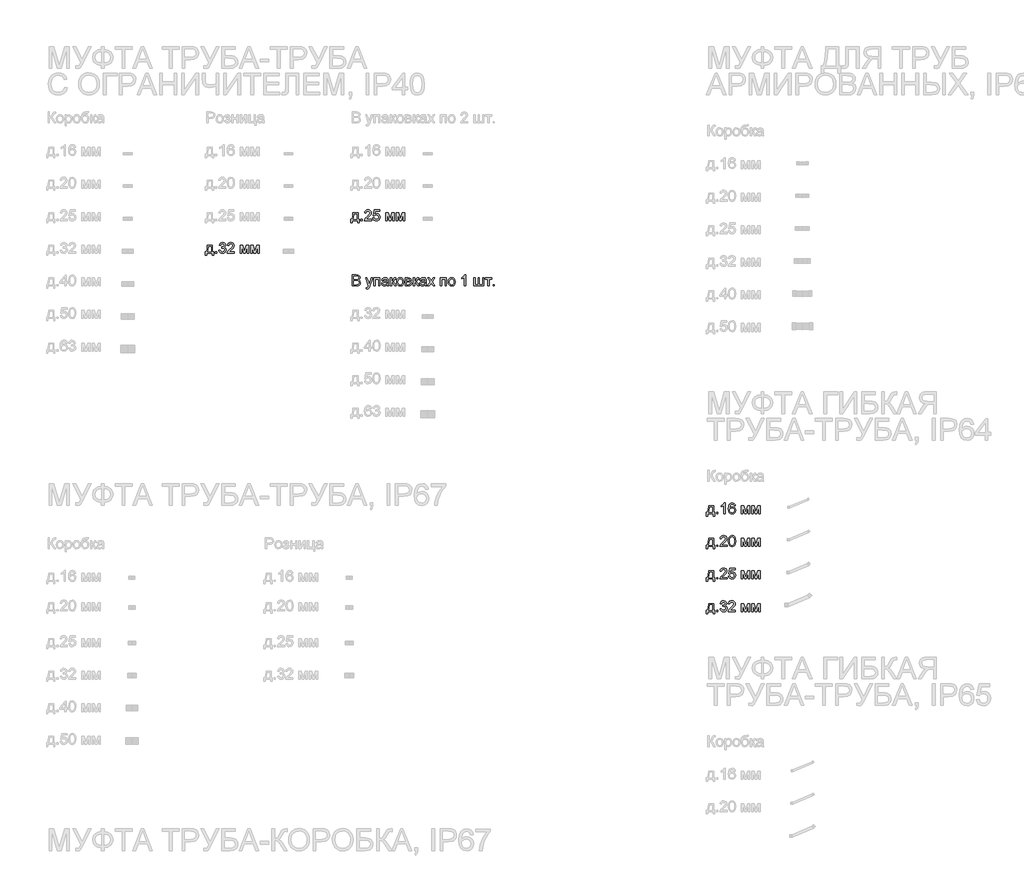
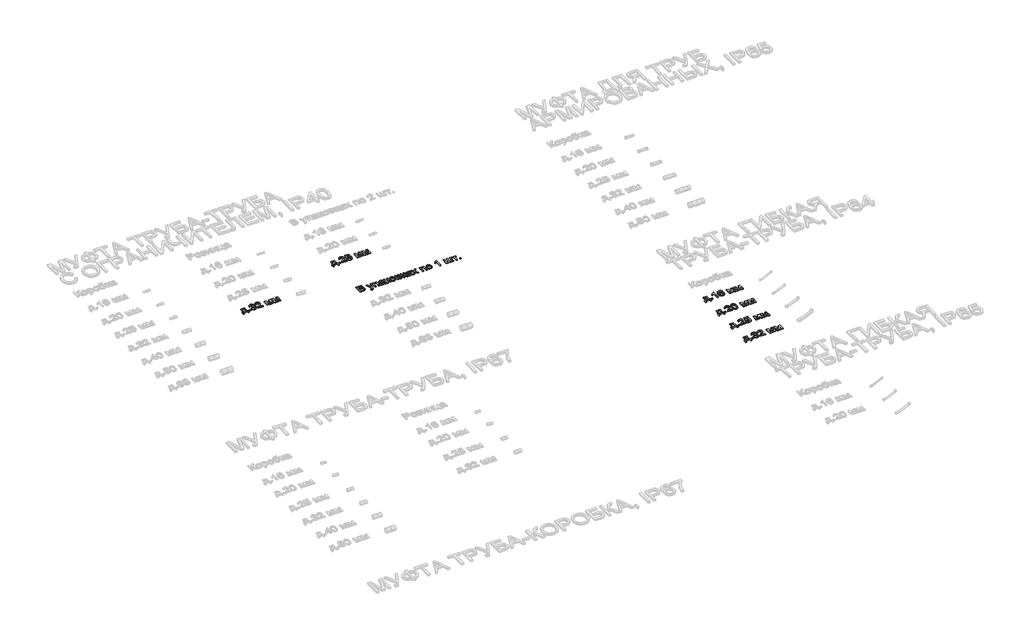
# One storey, part 77 of 98: 7 proxies.
"""IFC4 building model written with IfcOpenShell, lengths in millimetres."""

from ifc_helpers import new_model, si_unit, origin, origin_with_axes, place, context, project, spatial, polyline, outline, extrude, element, save

model = new_model("IFC4")

# Units and contexts
model_context = context("Model", 3, world=origin())
ifc_project = project(units=[si_unit("LENGTHUNIT", "METRE", prefix="MILLI")], contexts=[model_context])

# Site, building, storey
site = spatial("IfcSite", under=ifc_project)
building = spatial("IfcBuilding", under=site)
storey = spatial("IfcBuildingStorey", under=building, Name="Этаж 01", Elevation=0.0)

# Proxies
placement = place(None, origin())
element("IfcBuildingElementProxy", 1, Name="100", ObjectType="100", at=placement, inside=storey, context=model_context, shape_type="SweptSolid", body=[
    extrude(outline(polyline([(9816.3281893, -16465.7395637), (9863.4170847, -16465.7395637), (9863.4170847, -16526.9551277), (9872.8348638, -16526.9551277), (9872.8348638, -16559.9173545), (9860.277825, -16559.9173545), (9860.277825, -16539.5121665), (9808.4800401, -16539.5121665), (9808.4800401, -16559.9173545), (9795.9230013, -16559.9173545), (9795.9230013, -16526.9551277), (9803.7711505, -16526.9551277), (9813.4709725, -16503.0060098), (9816.3281893, -16465.7395637)]), holes=[polyline([(9827.3155982, -16478.2966025), (9824.3725423, -16506.905559), (9817.8978192, -16526.9551277), (9850.8600459, -16526.9551277), (9850.8600459, -16478.2966025), (9827.3155982, -16478.2966025)])]), origin_with_axes(), (0.0, 0.0, 1.0), 10.0),
    extrude(outline(polyline([(9890.1007921, -16539.5121665), (9890.1007921, -16526.9551277), (9902.6578308, -16526.9551277), (9902.6578308, -16539.5121665), (9890.1007921, -16539.5121665)])), origin_with_axes(), (0.0, 0.0, 1.0), 10.0),
    extrude(outline(polyline([(9923.0630188, -16512.8284591), (9935.6200576, -16511.2588292), (9942.5485019, -16524.4780556), (9955.5102108, -16528.5247575), (9964.1186495, -16527.1329373), (9970.7650509, -16522.9574767), (9976.4304336, -16509.1741646), (9970.8141018, -16496.1879302), (9956.5402804, -16491.049845), (9947.735638, -16492.4232711), (9949.1335896, -16479.8662323), (9951.1446778, -16480.0133851), (9965.3939738, -16476.4081416), (9970.1396515, -16471.8341421), (9971.7215441, -16465.3226308), (9967.1352819, -16455.5001815), (9955.3140071, -16451.6128951), (9943.3455795, -16455.5369697), (9937.1896875, -16467.3091935), (9924.6326487, -16465.7395637), (9928.3298627, -16454.4639805), (9934.9088191, -16446.0456142), (9943.9096652, -16440.8032958), (9954.8725487, -16439.0558563), (9970.0170242, -16442.5016843), (9980.6120256, -16451.9194634), (9984.2785828, -16464.5868668), (9980.7959666, -16476.1628869), (9970.4952708, -16484.47702), (9984.180481, -16493.0609332), (9988.9874724, -16509.3948938), (9986.5839767, -16521.6331015), (9979.3734896, -16531.860221), (9968.4903139, -16538.7764025), (9955.0687524, -16541.0817963), (9942.9286466, -16539.1136276), (9933.0448836, -16533.2091216), (9926.1716217, -16524.1776186), (9923.0630188, -16512.8284591)])), origin_with_axes(), (0.0, 0.0, 1.0), 10.0),
    extrude(outline(polyline([(10064.329705, -16526.9551277), (10064.329705, -16539.5121665), (9998.4052515, -16539.5121665), (9999.7541521, -16530.8546768), (10007.3815721, -16517.5250859), (10023.1023961, -16502.9692216), (10044.7829083, -16482.0489988), (10050.2030364, -16467.8242283), (10045.0894766, -16456.3095219), (10031.7353602, -16451.6128951), (10017.8171581, -16456.1991573), (10012.5319201, -16468.8788234), (9999.9748813, -16467.3091935), (10003.0191048, -16455.1629563), (10009.6011268, -16446.2908689), (10019.3775909, -16440.8646095), (10032.0051403, -16439.0558563), (10044.7246603, -16441.0669445), (10054.4827303, -16447.1002093), (10060.6907389, -16456.1133182), (10062.7600751, -16467.0639389), (10060.5282577, -16478.9710528), (10053.1093041, -16491.2828369), (10035.1198746, -16508.4874515), (10020.6743749, -16520.5662437), (10015.0089922, -16526.9551277), (10064.329705, -16526.9551277)])), origin_with_axes(), (0.0, 0.0, 1.0), 10.0),
    extrude(outline(polyline([(10119.2667496, -16465.7395637), (10140.8736855, -16465.7395637), (10157.5264771, -16524.7968867), (10175.4791185, -16465.7395637), (10196.1786121, -16465.7395637), (10196.1786121, -16539.5121665), (10183.6215733, -16539.5121665), (10183.6215733, -16480.111487), (10165.5708301, -16539.5121665), (10149.0897167, -16539.5121665), (10131.8237884, -16477.2665329), (10131.8237884, -16539.5121665), (10119.2667496, -16539.5121665), (10119.2667496, -16465.7395637)])), origin_with_axes(), (0.0, 0.0, 1.0), 10.0),
    extrude(outline(polyline([(10215.0141702, -16465.7395637), (10236.6211061, -16465.7395637), (10253.2738977, -16524.7968867), (10271.2265391, -16465.7395637), (10291.9260327, -16465.7395637), (10291.9260327, -16539.5121665), (10279.3689939, -16539.5121665), (10279.3689939, -16480.111487), (10261.3182507, -16539.5121665), (10244.8371373, -16539.5121665), (10227.571209, -16477.2665329), (10227.571209, -16539.5121665), (10215.0141702, -16539.5121665), (10215.0141702, -16465.7395637)])), origin_with_axes(), (0.0, 0.0, 1.0), 10.0),
])
element("IfcBuildingElementProxy", 2, Name="100", ObjectType="100", at=placement, inside=storey, context=model_context, shape_type="SweptSolid", body=[
    extrude(outline(polyline([(11156.3281893, -16165.7395637), (11203.4170847, -16165.7395637), (11203.4170847, -16226.9551277), (11212.8348638, -16226.9551277), (11212.8348638, -16259.9173545), (11200.277825, -16259.9173545), (11200.277825, -16239.5121665), (11148.4800401, -16239.5121665), (11148.4800401, -16259.9173545), (11135.9230013, -16259.9173545), (11135.9230013, -16226.9551277), (11143.7711505, -16226.9551277), (11153.4709725, -16203.0060098), (11156.3281893, -16165.7395637)]), holes=[polyline([(11167.3155982, -16178.2966025), (11164.3725423, -16206.905559), (11157.8978192, -16226.9551277), (11190.8600459, -16226.9551277), (11190.8600459, -16178.2966025), (11167.3155982, -16178.2966025)])]), origin_with_axes(), (0.0, 0.0, 1.0), 10.0),
    extrude(outline(polyline([(11230.1007921, -16239.5121665), (11230.1007921, -16226.9551277), (11242.6578308, -16226.9551277), (11242.6578308, -16239.5121665), (11230.1007921, -16239.5121665)])), origin_with_axes(), (0.0, 0.0, 1.0), 10.0),
    extrude(outline(polyline([(11327.4178425, -16226.9551277), (11327.4178425, -16239.5121665), (11261.493389, -16239.5121665), (11262.8422896, -16230.8546768), (11270.4697097, -16217.5250859), (11286.1905336, -16202.9692216), (11307.8710459, -16182.0489988), (11313.2911739, -16167.8242283), (11308.1776142, -16156.3095219), (11294.8234978, -16151.6128951), (11280.9052956, -16156.1991573), (11275.6200576, -16168.8788234), (11263.0630188, -16167.3091935), (11266.1072424, -16155.1629563), (11272.6892644, -16146.2908689), (11282.4657284, -16140.8646095), (11295.0932779, -16139.0558563), (11307.8127979, -16141.0669445), (11317.5708678, -16147.1002093), (11323.7788765, -16156.1133182), (11325.8482127, -16167.0639389), (11323.6163953, -16178.9710528), (11316.1974417, -16191.2828369), (11298.2080121, -16208.4874515), (11283.7625124, -16220.5662437), (11278.0971297, -16226.9551277), (11327.4178425, -16226.9551277)])), origin_with_axes(), (0.0, 0.0, 1.0), 10.0),
    extrude(outline(polyline([(11339.9748813, -16212.8284591), (11352.5319201, -16211.2588292), (11358.8594904, -16224.1960127), (11371.9806149, -16228.5247575), (11380.981461, -16227.019507), (11387.7259643, -16222.5037555), (11391.9382131, -16215.4986692), (11393.3422961, -16206.5254142), (11388.0815835, -16191.6139307), (11381.475036, -16187.5120464), (11372.1768186, -16186.1447517), (11361.1526215, -16188.3275182), (11354.1015499, -16193.9929009), (11341.5445111, -16192.4232711), (11352.5319201, -16140.6254862), (11401.1904453, -16140.6254862), (11401.1904453, -16153.1825249), (11362.6854631, -16153.1825249), (11357.314386, -16180.847251), (11366.2845753, -16175.4025974), (11375.6839603, -16173.5877129), (11387.4163303, -16175.8379245), (11397.1560061, -16182.5885591), (11403.7135027, -16192.8769922), (11405.8993348, -16205.7405993), (11403.9311662, -16218.2976381), (11398.0266601, -16229.0397923), (11386.7204202, -16238.0712953), (11371.931564, -16241.0817963), (11359.5983201, -16239.1473501), (11349.7728051, -16233.3440117), (11343.0374989, -16224.3462312), (11339.9748813, -16212.8284591)])), origin_with_axes(), (0.0, 0.0, 1.0), 10.0),
    extrude(outline(polyline([(11459.2667496, -16165.7395637), (11480.8736855, -16165.7395637), (11497.5264771, -16224.7968867), (11515.4791185, -16165.7395637), (11536.1786121, -16165.7395637), (11536.1786121, -16239.5121665), (11523.6215733, -16239.5121665), (11523.6215733, -16180.111487), (11505.5708301, -16239.5121665), (11489.0897167, -16239.5121665), (11471.8237884, -16177.2665329), (11471.8237884, -16239.5121665), (11459.2667496, -16239.5121665), (11459.2667496, -16165.7395637)])), origin_with_axes(), (0.0, 0.0, 1.0), 10.0),
    extrude(outline(polyline([(11555.0141702, -16165.7395637), (11576.6211061, -16165.7395637), (11593.2738977, -16224.7968867), (11611.2265391, -16165.7395637), (11631.9260327, -16165.7395637), (11631.9260327, -16239.5121665), (11619.3689939, -16239.5121665), (11619.3689939, -16180.111487), (11601.3182507, -16239.5121665), (11584.8371373, -16239.5121665), (11567.571209, -16177.2665329), (11567.571209, -16239.5121665), (11555.0141702, -16239.5121665), (11555.0141702, -16165.7395637)])), origin_with_axes(), (0.0, 0.0, 1.0), 10.0),
])
element("IfcBuildingElementProxy", 3, Name="100", ObjectType="100", at=placement, inside=storey, context=model_context, shape_type="SweptSolid", body=[
    extrude(outline(polyline([(11149.7389883, -16839.5121665), (11149.7389883, -16739.0558563), (11188.0722922, -16739.0558563), (11206.8465367, -16742.011175), (11217.9320475, -16751.0978603), (11221.9419613, -16763.9492046), (11218.5697096, -16775.6846403), (11208.3793784, -16784.5751218), (11220.7524761, -16793.94385), (11225.081221, -16809.5665721), (11222.1259023, -16823.0678413), (11214.8050506, -16832.6818241), (11203.8789553, -16837.7831211), (11187.7779866, -16839.5121665), (11149.7389883, -16839.5121665)]), holes=[polyline([(11162.2960271, -16779.8662323), (11185.2273381, -16779.8662323), (11198.6182428, -16778.7871118), (11206.6748585, -16774.1395359), (11209.3849225, -16765.9602929), (11206.8587995, -16757.7687871), (11199.6237869, -16752.9250075), (11183.48603, -16751.6128951), (11162.2960271, -16751.6128951), (11162.2960271, -16779.8662323)]), polyline([(11162.2960271, -16826.9551277), (11188.0477668, -16826.9551277), (11197.367444, -16826.4646184), (11205.2523814, -16823.7300289), (11210.4763057, -16818.1504853), (11212.5241822, -16809.6891994), (11210.1206865, -16799.9280638), (11202.3338509, -16794.1032655), (11186.8214935, -16792.4232711), (11162.2960271, -16792.4232711), (11162.2960271, -16826.9551277)])]), origin_with_axes(), (0.0, 0.0, 1.0), 10.0),
    extrude(outline(polyline([(11280.0182656, -16867.7655037), (11278.4486357, -16855.6744488), (11284.825257, -16856.7780948), (11290.7849453, -16855.3924059), (11294.4392398, -16851.529645), (11297.8728051, -16842.2835442), (11298.8538237, -16839.2423863), (11272.1701163, -16765.7395637), (11285.4138682, -16765.7395637), (11299.5650622, -16806.6970925), (11304.494681, -16823.080104), (11309.4242997, -16808.6100789), (11323.9679013, -16765.7395637), (11337.1135512, -16765.7395637), (11311.435388, -16841.278), (11304.7644611, -16857.6610116), (11297.4803976, -16866.5147049), (11287.6947365, -16869.3351335), (11280.0182656, -16867.7655037)])), origin_with_axes(), (0.0, 0.0, 1.0), 10.0),
    extrude(outline(polyline([(11347.512349, -16765.7395637), (11404.0190234, -16765.7395637), (11404.0190234, -16839.5121665), (11391.4619846, -16839.5121665), (11391.4619846, -16778.2966025), (11360.0693877, -16778.2966025), (11360.0693877, -16839.5121665), (11347.512349, -16839.5121665), (11347.512349, -16765.7395637)])), origin_with_axes(), (0.0, 0.0, 1.0), 10.0),
    extrude(outline(polyline([(11469.9434769, -16830.0943874), (11457.7665829, -16838.6047242), (11444.3143646, -16841.0817963), (11433.8205307, -16839.5918742), (11426.0796804, -16835.122108), (11421.3064115, -16828.3346852), (11419.7153219, -16819.8917934), (11422.1188176, -16809.9589795), (11428.4341252, -16802.7484924), (11437.2265048, -16798.6282141), (11448.0912864, -16796.7397532), (11469.8699005, -16792.4232711), (11469.9434769, -16789.6273679), (11466.4853862, -16780.3567416), (11452.6039722, -16776.7269726), (11439.8997807, -16779.1427311), (11433.8419905, -16787.7143815), (11421.2849517, -16786.1447517), (11426.7173425, -16773.8820185), (11437.6557005, -16766.6960569), (11454.222653, -16764.1699338), (11469.4407049, -16766.4017513), (11478.0368808, -16772.0058203), (11481.8873791, -16780.5284199), (11482.5005157, -16791.5158288), (11482.5005157, -16807.1385509), (11483.1381778, -16828.9539532), (11485.6397754, -16839.5121665), (11473.0827366, -16839.5121665), (11469.9434769, -16830.0943874)]), holes=[polyline([(11469.9434769, -16804.9803098), (11449.6854417, -16808.8308081), (11438.8819738, -16810.8664218), (11433.9891433, -16814.1773597), (11432.2723606, -16819.0088766), (11436.0124943, -16825.8024308), (11446.9876404, -16828.5247575), (11459.691832, -16825.5203879), (11467.8833378, -16818.2485871), (11469.8699005, -16808.5365025), (11469.9434769, -16804.9803098)])]), origin_with_axes(), (0.0, 0.0, 1.0), 10.0),
    extrude(outline(polyline([(11499.766444, -16765.7395637), (11512.3234828, -16765.7395637), (11512.3234828, -16797.1321606), (11520.7357177, -16794.8758177), (11527.6273738, -16781.7301677), (11533.3540702, -16770.3871396), (11538.4063162, -16766.6960569), (11547.5911034, -16765.7395637), (11549.9945991, -16765.7395637), (11549.9945991, -16778.3701789), (11546.6100847, -16778.2966025), (11540.4787182, -16779.6209776), (11536.1622361, -16787.8860598), (11531.0977273, -16796.8255923), (11523.9976048, -16801.203388), (11531.9193304, -16806.0900872), (11539.6939032, -16816.3846517), (11553.1338588, -16839.5121665), (11538.8600374, -16839.5121665), (11525.6898619, -16816.875161), (11519.067986, -16807.2979664), (11512.3234828, -16804.9803098), (11512.3234828, -16839.5121665), (11499.766444, -16839.5121665), (11499.766444, -16765.7395637)])), origin_with_axes(), (0.0, 0.0, 1.0), 10.0),
    extrude(outline(polyline([(11557.8427483, -16802.6258651), (11560.5589437, -16784.8387706), (11568.7075299, -16772.3369141), (11578.7752339, -16766.2116789), (11590.8295006, -16764.1699338), (11604.0211358, -16766.656203), (11614.5578892, -16774.1150104), (11621.4648737, -16785.957745), (11623.7672019, -16801.5957955), (11619.6959744, -16823.9384953), (11607.8379115, -16836.5813732), (11590.8295006, -16841.0817963), (11577.4784498, -16838.6047242), (11566.9539591, -16831.1735079), (11560.120551, -16819.082453), (11557.8427483, -16802.6258651)]), holes=[polyline([(11570.3997871, -16802.6013396), (11571.852921, -16813.9658276), (11576.2123226, -16822.0622972), (11582.7728849, -16826.9091424), (11590.8295006, -16828.5247575), (11598.8493281, -16826.8999454), (11605.3976276, -16822.025509), (11609.7570292, -16813.8217405), (11611.2101631, -16802.2089321), (11609.7478322, -16791.175538), (11605.3608394, -16783.189433), (11598.8033428, -16778.3425877), (11590.8295006, -16776.7269726), (11582.7728849, -16778.3364563), (11576.2123226, -16783.1649075), (11571.852921, -16791.242983), (11570.3997871, -16802.6013396)])]), origin_with_axes(), (0.0, 0.0, 1.0), 10.0),
    extrude(outline(polyline([(11637.8938705, -16765.7395637), (11665.5585965, -16765.7395637), (11680.7275974, -16767.4195581), (11689.2624597, -16773.5754502), (11692.8309151, -16784.3053417), (11690.6726741, -16793.024145), (11684.1734255, -16799.2413507), (11692.6101859, -16806.0471676), (11695.9701748, -16817.8807051), (11693.8425906, -16827.4517684), (11688.7842131, -16834.1901403), (11680.7766484, -16838.1816599), (11669.8015022, -16839.5121665), (11637.8938705, -16839.5121665), (11637.8938705, -16765.7395637)]), holes=[polyline([(11650.4509092, -16793.9929009), (11662.8607952, -16793.9929009), (11673.1001774, -16793.3552388), (11678.0788471, -16790.8045903), (11680.2738763, -16786.1938026), (11676.4233781, -16780.0379106), (11663.2532027, -16778.2966025), (11650.4509092, -16778.2966025), (11650.4509092, -16793.9929009)]), polyline([(11650.4509092, -16826.9551277), (11665.8529021, -16826.9551277), (11679.5135869, -16824.6865221), (11683.413136, -16816.8506356), (11681.2671577, -16810.8051081), (11675.6753514, -16807.2857037), (11664.6266288, -16806.5499397), (11650.4509092, -16806.5499397), (11650.4509092, -16826.9551277)])]), origin_with_axes(), (0.0, 0.0, 1.0), 10.0),
    extrude(outline(polyline([(11711.6664732, -16765.7395637), (11724.223512, -16765.7395637), (11724.223512, -16797.1321606), (11732.635747, -16794.8758177), (11739.527403, -16781.7301677), (11745.2540994, -16770.3871396), (11750.3063455, -16766.6960569), (11759.4911326, -16765.7395637), (11761.8946283, -16765.7395637), (11761.8946283, -16778.3701789), (11758.510114, -16778.2966025), (11752.3787474, -16779.6209776), (11748.0622653, -16787.8860598), (11742.9977565, -16796.8255923), (11735.897634, -16801.203388), (11743.8193596, -16806.0900872), (11751.5939325, -16816.3846517), (11765.033888, -16839.5121665), (11750.7600666, -16839.5121665), (11737.5898912, -16816.875161), (11730.9680153, -16807.2979664), (11724.223512, -16804.9803098), (11724.223512, -16839.5121665), (11711.6664732, -16839.5121665), (11711.6664732, -16765.7395637)])), origin_with_axes(), (0.0, 0.0, 1.0), 10.0),
    extrude(outline(polyline([(11819.9709326, -16830.0943874), (11807.7940386, -16838.6047242), (11794.3418203, -16841.0817963), (11783.8479864, -16839.5918742), (11776.1071361, -16835.122108), (11771.3338672, -16828.3346852), (11769.7427775, -16819.8917934), (11772.1462733, -16809.9589795), (11778.4615808, -16802.7484924), (11787.2539605, -16798.6282141), (11798.1187421, -16796.7397532), (11819.8973562, -16792.4232711), (11819.9709326, -16789.6273679), (11816.5128419, -16780.3567416), (11802.6314279, -16776.7269726), (11789.9272364, -16779.1427311), (11783.8694462, -16787.7143815), (11771.3124074, -16786.1447517), (11776.7447982, -16773.8820185), (11787.6831562, -16766.6960569), (11804.2501087, -16764.1699338), (11819.4681606, -16766.4017513), (11828.0643365, -16772.0058203), (11831.9148347, -16780.5284199), (11832.5279714, -16791.5158288), (11832.5279714, -16807.1385509), (11833.1656335, -16828.9539532), (11835.6672311, -16839.5121665), (11823.1101923, -16839.5121665), (11819.9709326, -16830.0943874)]), holes=[polyline([(11819.9709326, -16804.9803098), (11799.7128974, -16808.8308081), (11788.9094295, -16810.8664218), (11784.016599, -16814.1773597), (11782.2998163, -16819.0088766), (11786.0399499, -16825.8024308), (11797.0150961, -16828.5247575), (11809.7192877, -16825.5203879), (11817.9107935, -16818.2485871), (11819.8973562, -16808.5365025), (11819.9709326, -16804.9803098)])]), origin_with_axes(), (0.0, 0.0, 1.0), 10.0),
    extrude(outline(polyline([(11841.9457505, -16839.5121665), (11868.7766107, -16802.4296613), (11843.5153803, -16765.7395637), (11858.6230676, -16765.7395637), (11870.8122244, -16783.3978995), (11876.5021325, -16791.736558), (11881.4317513, -16784.9184784), (11895.3131652, -16765.7395637), (11910.4208525, -16765.7395637), (11883.8842979, -16802.4296613), (11909.4398339, -16839.5121665), (11894.3321466, -16839.5121665), (11878.9546792, -16817.2185176), (11876.1342506, -16813.1472901), (11857.0534377, -16839.5121665), (11841.9457505, -16839.5121665)])), origin_with_axes(), (0.0, 0.0, 1.0), 10.0),
    extrude(outline(polyline([(11959.6679889, -16765.7395637), (12016.1746634, -16765.7395637), (12016.1746634, -16839.5121665), (12003.6176246, -16839.5121665), (12003.6176246, -16778.2966025), (11972.2250277, -16778.2966025), (11972.2250277, -16839.5121665), (11959.6679889, -16839.5121665), (11959.6679889, -16765.7395637)])), origin_with_axes(), (0.0, 0.0, 1.0), 10.0),
    extrude(outline(polyline([(12031.8709618, -16802.6258651), (12034.5871572, -16784.8387706), (12042.7357434, -16772.3369141), (12052.8034474, -16766.2116789), (12064.8577141, -16764.1699338), (12078.0493493, -16766.656203), (12088.5861028, -16774.1150104), (12095.4930872, -16785.957745), (12097.7954154, -16801.5957955), (12093.724188, -16823.9384953), (12081.866125, -16836.5813732), (12064.8577141, -16841.0817963), (12051.5066633, -16838.6047242), (12040.9821726, -16831.1735079), (12034.1487645, -16819.082453), (12031.8709618, -16802.6258651)]), holes=[polyline([(12044.4280006, -16802.6013396), (12045.8811345, -16813.9658276), (12050.2405361, -16822.0622972), (12056.8010984, -16826.9091424), (12064.8577141, -16828.5247575), (12072.8775416, -16826.8999454), (12079.4258411, -16822.025509), (12083.7852427, -16813.8217405), (12085.2383766, -16802.2089321), (12083.7760457, -16791.175538), (12079.3890529, -16783.189433), (12072.8315563, -16778.3425877), (12064.8577141, -16776.7269726), (12056.8010984, -16778.3364563), (12050.2405361, -16783.1649075), (12045.8811345, -16791.242983), (12044.4280006, -16802.6013396)])]), origin_with_axes(), (0.0, 0.0, 1.0), 10.0),
    extrude(outline(polyline([(12195.1124658, -16839.5121665), (12182.5554271, -16839.5121665), (12182.5554271, -16761.2268779), (12170.6605759, -16769.7004265), (12157.4413495, -16776.0402596), (12157.4413495, -16764.1699338), (12175.847712, -16752.4222355), (12187.0190619, -16739.0558563), (12195.1124658, -16739.0558563), (12195.1124658, -16839.5121665)])), origin_with_axes(), (0.0, 0.0, 1.0), 10.0),
    extrude(outline(polyline([(12267.3154388, -16765.7395637), (12279.8724775, -16765.7395637), (12279.8724775, -16826.9551277), (12308.1258148, -16826.9551277), (12308.1258148, -16765.7395637), (12320.6828535, -16765.7395637), (12320.6828535, -16826.9551277), (12348.9361908, -16826.9551277), (12348.9361908, -16765.7395637), (12361.4932295, -16765.7395637), (12361.4932295, -16839.5121665), (12267.3154388, -16839.5121665), (12267.3154388, -16765.7395637)])), origin_with_axes(), (0.0, 0.0, 1.0), 10.0),
    extrude(outline(polyline([(12372.4806384, -16765.7395637), (12432.1265726, -16765.7395637), (12432.1265726, -16778.2966025), (12408.5821249, -16778.2966025), (12408.5821249, -16839.5121665), (12396.0250861, -16839.5121665), (12396.0250861, -16778.2966025), (12372.4806384, -16778.2966025), (12372.4806384, -16765.7395637)])), origin_with_axes(), (0.0, 0.0, 1.0), 10.0),
    extrude(outline(polyline([(12446.2532412, -16839.5121665), (12446.2532412, -16826.9551277), (12458.81028, -16826.9551277), (12458.81028, -16839.5121665), (12446.2532412, -16839.5121665)])), origin_with_axes(), (0.0, 0.0, 1.0), 10.0),
])
element("IfcBuildingElementProxy", 4, Name="100", ObjectType="100", at=placement, inside=storey, context=model_context, shape_type="SweptSolid", body=[
    extrude(outline(polyline([(14428.905254, -18863.7647458), (14475.9941494, -18863.7647458), (14475.9941494, -18924.9803098), (14485.4119285, -18924.9803098), (14485.4119285, -18957.9425366), (14472.8548897, -18957.9425366), (14472.8548897, -18937.5373486), (14421.0571048, -18937.5373486), (14421.0571048, -18957.9425366), (14408.500066, -18957.9425366), (14408.500066, -18924.9803098), (14416.3482152, -18924.9803098), (14426.0480372, -18901.031192), (14428.905254, -18863.7647458)]), holes=[polyline([(14439.8926629, -18876.3217846), (14436.949607, -18904.9307411), (14430.4748839, -18924.9803098), (14463.4371106, -18924.9803098), (14463.4371106, -18876.3217846), (14439.8926629, -18876.3217846)])]), origin_with_axes(), (0.0, 0.0, 1.0), 10.0),
    extrude(outline(polyline([(14502.6778568, -18937.5373486), (14502.6778568, -18924.9803098), (14515.2348955, -18924.9803098), (14515.2348955, -18937.5373486), (14502.6778568, -18937.5373486)])), origin_with_axes(), (0.0, 0.0, 1.0), 10.0),
    extrude(outline(polyline([(14582.7289789, -18937.5373486), (14570.1719402, -18937.5373486), (14570.1719402, -18859.25206), (14558.277089, -18867.7256087), (14545.0578626, -18874.0654417), (14545.0578626, -18862.195116), (14563.4642251, -18850.4474176), (14574.635575, -18837.0810385), (14582.7289789, -18837.0810385), (14582.7289789, -18937.5373486)])), origin_with_axes(), (0.0, 0.0, 1.0), 10.0),
    extrude(outline(polyline([(14676.9067697, -18863.7647458), (14664.3497309, -18865.3343757), (14659.5917905, -18854.8620016), (14647.0102262, -18849.6380772), (14635.6794608, -18852.6792351), (14627.1078103, -18864.0958396), (14623.5393549, -18886.4753277), (14634.612603, -18876.4566747), (14648.3346014, -18873.1825249), (14659.935147, -18875.4204737), (14669.6717571, -18882.1343201), (14676.2752389, -18892.3920964), (14678.4763995, -18905.2618349), (14674.3315957, -18922.5890769), (14662.9272539, -18934.85181), (14646.470666, -18939.1069785), (14632.2244357, -18936.2865498), (14620.8783418, -18927.8252639), (14613.4563226, -18912.8892549), (14610.9823162, -18890.644657), (14613.7291684, -18865.6348127), (14621.9697251, -18848.5344312), (14633.2207828, -18839.9443867), (14647.7950411, -18837.0810385), (14658.8131069, -18838.8530034), (14667.6361434, -18844.1688982), (14673.8165609, -18852.61179), (14676.9067697, -18863.7647458)]), holes=[polyline([(14623.5393549, -18905.0656312), (14626.4456227, -18915.9426755), (14634.1711446, -18923.8398757), (14645.4896473, -18926.5499397), (14653.7761892, -18925.1458567), (14660.2907662, -18920.9336079), (14664.5122121, -18914.311732), (14665.9193608, -18905.6787678), (14664.5306062, -18897.3922259), (14660.3643426, -18891.0738526), (14653.739401, -18887.0731359), (14644.9746125, -18885.7395637), (14629.7810861, -18891.0738526), (14625.0997877, -18897.2389417), (14623.5393549, -18905.0656312)])]), origin_with_axes(), (0.0, 0.0, 1.0), 10.0),
    extrude(outline(polyline([(14731.8438143, -18863.7647458), (14753.4507502, -18863.7647458), (14770.1035418, -18922.8220688), (14788.0561832, -18863.7647458), (14808.7556768, -18863.7647458), (14808.7556768, -18937.5373486), (14796.198638, -18937.5373486), (14796.198638, -18878.1366691), (14778.1478948, -18937.5373486), (14761.6667814, -18937.5373486), (14744.4008531, -18875.291715), (14744.4008531, -18937.5373486), (14731.8438143, -18937.5373486), (14731.8438143, -18863.7647458)])), origin_with_axes(), (0.0, 0.0, 1.0), 10.0),
    extrude(outline(polyline([(14827.5912349, -18863.7647458), (14849.1981708, -18863.7647458), (14865.8509624, -18922.8220688), (14883.8036038, -18863.7647458), (14904.5030974, -18863.7647458), (14904.5030974, -18937.5373486), (14891.9460586, -18937.5373486), (14891.9460586, -18878.1366691), (14873.8953154, -18937.5373486), (14857.414202, -18937.5373486), (14840.1482737, -18875.291715), (14840.1482737, -18937.5373486), (14827.5912349, -18937.5373486), (14827.5912349, -18863.7647458)])), origin_with_axes(), (0.0, 0.0, 1.0), 10.0),
])
element("IfcBuildingElementProxy", 5, Name="100", ObjectType="100", at=placement, inside=storey, context=model_context, shape_type="SweptSolid", body=[
    extrude(outline(polyline([(14428.905254, -19163.7647458), (14475.9941494, -19163.7647458), (14475.9941494, -19224.9803098), (14485.4119285, -19224.9803098), (14485.4119285, -19257.9425366), (14472.8548897, -19257.9425366), (14472.8548897, -19237.5373486), (14421.0571048, -19237.5373486), (14421.0571048, -19257.9425366), (14408.500066, -19257.9425366), (14408.500066, -19224.9803098), (14416.3482152, -19224.9803098), (14426.0480372, -19201.031192), (14428.905254, -19163.7647458)]), holes=[polyline([(14439.8926629, -19176.3217846), (14436.949607, -19204.9307411), (14430.4748839, -19224.9803098), (14463.4371106, -19224.9803098), (14463.4371106, -19176.3217846), (14439.8926629, -19176.3217846)])]), origin_with_axes(), (0.0, 0.0, 1.0), 10.0),
    extrude(outline(polyline([(14502.6778568, -19237.5373486), (14502.6778568, -19224.9803098), (14515.2348955, -19224.9803098), (14515.2348955, -19237.5373486), (14502.6778568, -19237.5373486)])), origin_with_axes(), (0.0, 0.0, 1.0), 10.0),
    extrude(outline(polyline([(14599.9949072, -19224.9803098), (14599.9949072, -19237.5373486), (14534.0704537, -19237.5373486), (14535.4193544, -19228.879859), (14543.0467744, -19215.550268), (14558.7675983, -19200.9944038), (14580.4481106, -19180.074181), (14585.8682386, -19165.8494105), (14580.7546789, -19154.334704), (14567.4005625, -19149.6380772), (14553.4823603, -19154.2243394), (14548.1971223, -19166.9040055), (14535.6400835, -19165.3343757), (14538.6843071, -19153.1881385), (14545.2663291, -19144.316051), (14555.0427931, -19138.8897916), (14567.6703426, -19137.0810385), (14580.3898626, -19139.0921267), (14590.1479325, -19145.1253914), (14596.3559412, -19154.1385003), (14598.4252774, -19165.089121), (14596.19346, -19176.9962349), (14588.7745064, -19189.308019), (14570.7850768, -19206.5126337), (14556.3395771, -19218.5914259), (14550.6741944, -19224.9803098), (14599.9949072, -19224.9803098)])), origin_with_axes(), (0.0, 0.0, 1.0), 10.0),
    extrude(outline(polyline([(14612.551946, -19188.1185339), (14616.2430287, -19159.2152718), (14627.2059121, -19142.5502175), (14645.5141728, -19137.0810385), (14660.1804016, -19140.3184), (14670.3094192, -19149.65034), (14676.1955312, -19164.5127726), (14678.4763995, -19188.1185339), (14674.8221051, -19216.8991687), (14663.8960098, -19233.6010113), (14655.6646502, -19237.7304867), (14645.5141728, -19239.1069785), (14632.4666247, -19236.7157455), (14622.5583363, -19229.5420466), (14615.0535436, -19212.5520298), (14612.551946, -19188.1185339)]), holes=[polyline([(14625.1089848, -19188.0940085), (14626.5805128, -19207.8462059), (14630.9950967, -19219.2781389), (14637.5679217, -19224.7319895), (14645.5141728, -19226.5499397), (14653.4604239, -19224.7258581), (14660.0332488, -19219.2536135), (14664.4478328, -19207.8155491), (14665.9193608, -19188.0940085), (14664.4968837, -19168.7863351), (14660.2294526, -19157.2654973), (14653.6688903, -19151.5449322), (14645.36702, -19149.6380772), (14637.506608, -19151.3180717), (14631.1913004, -19156.358055), (14626.6295637, -19168.5962627), (14625.1089848, -19188.0940085)])]), origin_with_axes(), (0.0, 0.0, 1.0), 10.0),
    extrude(outline(polyline([(14731.8438143, -19163.7647458), (14753.4507502, -19163.7647458), (14770.1035418, -19222.8220688), (14788.0561832, -19163.7647458), (14808.7556768, -19163.7647458), (14808.7556768, -19237.5373486), (14796.198638, -19237.5373486), (14796.198638, -19178.1366691), (14778.1478948, -19237.5373486), (14761.6667814, -19237.5373486), (14744.4008531, -19175.291715), (14744.4008531, -19237.5373486), (14731.8438143, -19237.5373486), (14731.8438143, -19163.7647458)])), origin_with_axes(), (0.0, 0.0, 1.0), 10.0),
    extrude(outline(polyline([(14827.5912349, -19163.7647458), (14849.1981708, -19163.7647458), (14865.8509624, -19222.8220688), (14883.8036038, -19163.7647458), (14904.5030974, -19163.7647458), (14904.5030974, -19237.5373486), (14891.9460586, -19237.5373486), (14891.9460586, -19178.1366691), (14873.8953154, -19237.5373486), (14857.414202, -19237.5373486), (14840.1482737, -19175.291715), (14840.1482737, -19237.5373486), (14827.5912349, -19237.5373486), (14827.5912349, -19163.7647458)])), origin_with_axes(), (0.0, 0.0, 1.0), 10.0),
])
element("IfcBuildingElementProxy", 6, Name="100", ObjectType="100", at=placement, inside=storey, context=model_context, shape_type="SweptSolid", body=[
    extrude(outline(polyline([(14428.905254, -19463.7647458), (14475.9941494, -19463.7647458), (14475.9941494, -19524.9803098), (14485.4119285, -19524.9803098), (14485.4119285, -19557.9425366), (14472.8548897, -19557.9425366), (14472.8548897, -19537.5373486), (14421.0571048, -19537.5373486), (14421.0571048, -19557.9425366), (14408.500066, -19557.9425366), (14408.500066, -19524.9803098), (14416.3482152, -19524.9803098), (14426.0480372, -19501.031192), (14428.905254, -19463.7647458)]), holes=[polyline([(14439.8926629, -19476.3217846), (14436.949607, -19504.9307411), (14430.4748839, -19524.9803098), (14463.4371106, -19524.9803098), (14463.4371106, -19476.3217846), (14439.8926629, -19476.3217846)])]), origin_with_axes(), (0.0, 0.0, 1.0), 10.0),
    extrude(outline(polyline([(14502.6778568, -19537.5373486), (14502.6778568, -19524.9803098), (14515.2348955, -19524.9803098), (14515.2348955, -19537.5373486), (14502.6778568, -19537.5373486)])), origin_with_axes(), (0.0, 0.0, 1.0), 10.0),
    extrude(outline(polyline([(14599.9949072, -19524.9803098), (14599.9949072, -19537.5373486), (14534.0704537, -19537.5373486), (14535.4193544, -19528.879859), (14543.0467744, -19515.550268), (14558.7675983, -19500.9944038), (14580.4481106, -19480.074181), (14585.8682386, -19465.8494105), (14580.7546789, -19454.334704), (14567.4005625, -19449.6380772), (14553.4823603, -19454.2243394), (14548.1971223, -19466.9040055), (14535.6400835, -19465.3343757), (14538.6843071, -19453.1881385), (14545.2663291, -19444.316051), (14555.0427931, -19438.8897916), (14567.6703426, -19437.0810385), (14580.3898626, -19439.0921267), (14590.1479325, -19445.1253914), (14596.3559412, -19454.1385003), (14598.4252774, -19465.089121), (14596.19346, -19476.9962349), (14588.7745064, -19489.308019), (14570.7850768, -19506.5126337), (14556.3395771, -19518.5914259), (14550.6741944, -19524.9803098), (14599.9949072, -19524.9803098)])), origin_with_axes(), (0.0, 0.0, 1.0), 10.0),
    extrude(outline(polyline([(14612.551946, -19510.8536412), (14625.1089848, -19509.2840114), (14631.4365551, -19522.2211949), (14644.5576796, -19526.5499397), (14653.5585257, -19525.0446892), (14660.303029, -19520.5289377), (14664.5152778, -19513.5238514), (14665.9193608, -19504.5505964), (14660.6586482, -19489.6391128), (14654.0521007, -19485.5372286), (14644.7538833, -19484.1699338), (14633.7296862, -19486.3527004), (14626.6786146, -19492.0180831), (14614.1215759, -19490.4484532), (14625.1089848, -19438.6506683), (14673.76751, -19438.6506683), (14673.76751, -19451.2077071), (14635.2625278, -19451.2077071), (14629.8914507, -19478.8724331), (14638.86164, -19473.4277796), (14648.261025, -19471.6128951), (14659.993395, -19473.8631066), (14669.7330708, -19480.6137412), (14676.2905674, -19490.9021744), (14678.4763995, -19503.7657815), (14676.5082309, -19516.3228202), (14670.6037248, -19527.0649745), (14659.2974849, -19536.0964775), (14644.5086287, -19539.1069785), (14632.1753848, -19537.1725323), (14622.3498698, -19531.3691938), (14615.6145636, -19522.3714134), (14612.551946, -19510.8536412)])), origin_with_axes(), (0.0, 0.0, 1.0), 10.0),
    extrude(outline(polyline([(14731.8438143, -19463.7647458), (14753.4507502, -19463.7647458), (14770.1035418, -19522.8220688), (14788.0561832, -19463.7647458), (14808.7556768, -19463.7647458), (14808.7556768, -19537.5373486), (14796.198638, -19537.5373486), (14796.198638, -19478.1366691), (14778.1478948, -19537.5373486), (14761.6667814, -19537.5373486), (14744.4008531, -19475.291715), (14744.4008531, -19537.5373486), (14731.8438143, -19537.5373486), (14731.8438143, -19463.7647458)])), origin_with_axes(), (0.0, 0.0, 1.0), 10.0),
    extrude(outline(polyline([(14827.5912349, -19463.7647458), (14849.1981708, -19463.7647458), (14865.8509624, -19522.8220688), (14883.8036038, -19463.7647458), (14904.5030974, -19463.7647458), (14904.5030974, -19537.5373486), (14891.9460586, -19537.5373486), (14891.9460586, -19478.1366691), (14873.8953154, -19537.5373486), (14857.414202, -19537.5373486), (14840.1482737, -19475.291715), (14840.1482737, -19537.5373486), (14827.5912349, -19537.5373486), (14827.5912349, -19463.7647458)])), origin_with_axes(), (0.0, 0.0, 1.0), 10.0),
])
element("IfcBuildingElementProxy", 7, Name="100", ObjectType="100", at=placement, inside=storey, context=model_context, shape_type="SweptSolid", body=[
    extrude(outline(polyline([(14428.905254, -19763.7647458), (14475.9941494, -19763.7647458), (14475.9941494, -19824.9803098), (14485.4119285, -19824.9803098), (14485.4119285, -19857.9425366), (14472.8548897, -19857.9425366), (14472.8548897, -19837.5373486), (14421.0571048, -19837.5373486), (14421.0571048, -19857.9425366), (14408.500066, -19857.9425366), (14408.500066, -19824.9803098), (14416.3482152, -19824.9803098), (14426.0480372, -19801.031192), (14428.905254, -19763.7647458)]), holes=[polyline([(14439.8926629, -19776.3217846), (14436.949607, -19804.9307411), (14430.4748839, -19824.9803098), (14463.4371106, -19824.9803098), (14463.4371106, -19776.3217846), (14439.8926629, -19776.3217846)])]), origin_with_axes(), (0.0, 0.0, 1.0), 10.0),
    extrude(outline(polyline([(14502.6778568, -19837.5373486), (14502.6778568, -19824.9803098), (14515.2348955, -19824.9803098), (14515.2348955, -19837.5373486), (14502.6778568, -19837.5373486)])), origin_with_axes(), (0.0, 0.0, 1.0), 10.0),
    extrude(outline(polyline([(14535.6400835, -19810.8536412), (14548.1971223, -19809.2840114), (14555.1255666, -19822.5032377), (14568.0872755, -19826.5499397), (14576.6957142, -19825.1581195), (14583.3421156, -19820.9826588), (14589.0074983, -19807.1993467), (14583.3911665, -19794.2131123), (14569.1173451, -19789.0750271), (14560.3127027, -19790.4484532), (14561.7106543, -19777.8914145), (14563.7217425, -19778.0385673), (14577.9710385, -19774.4333237), (14582.7167162, -19769.8593242), (14584.2986088, -19763.3478129), (14579.7123466, -19753.5253636), (14567.8910718, -19749.6380772), (14555.9226442, -19753.5621518), (14549.7667522, -19765.3343757), (14537.2097134, -19763.7647458), (14540.9069274, -19752.4891627), (14547.4858838, -19744.0707964), (14556.4867299, -19738.8284779), (14567.4496134, -19737.0810385), (14582.5940889, -19740.5268665), (14593.1890903, -19749.9446456), (14596.8556475, -19762.6120489), (14593.3730313, -19774.188069), (14583.0723355, -19782.5022021), (14596.7575457, -19791.0861154), (14601.5645371, -19807.4200759), (14599.1610414, -19819.6582836), (14591.9505543, -19829.8854031), (14581.0673786, -19836.8015846), (14567.6458171, -19839.1069785), (14555.5057113, -19837.1388098), (14545.6219483, -19831.2343038), (14538.7486864, -19822.2028008), (14535.6400835, -19810.8536412)])), origin_with_axes(), (0.0, 0.0, 1.0), 10.0),
    extrude(outline(polyline([(14676.9067697, -19824.9803098), (14676.9067697, -19837.5373486), (14610.9823162, -19837.5373486), (14612.3312168, -19828.879859), (14619.9586368, -19815.550268), (14635.6794608, -19800.9944038), (14657.359973, -19780.074181), (14662.7801011, -19765.8494105), (14657.6665413, -19754.334704), (14644.3124249, -19749.6380772), (14630.3942228, -19754.2243394), (14625.1089848, -19766.9040055), (14612.551946, -19765.3343757), (14615.5961695, -19753.1881385), (14622.1781915, -19744.316051), (14631.9546556, -19738.8897916), (14644.5822051, -19737.0810385), (14657.301725, -19739.0921267), (14667.059795, -19745.1253914), (14673.2678036, -19754.1385003), (14675.3371398, -19765.089121), (14673.1053224, -19776.9962349), (14665.6863688, -19789.308019), (14647.6969393, -19806.5126337), (14633.2514396, -19818.5914259), (14627.5860569, -19824.9803098), (14676.9067697, -19824.9803098)])), origin_with_axes(), (0.0, 0.0, 1.0), 10.0),
    extrude(outline(polyline([(14731.8438143, -19763.7647458), (14753.4507502, -19763.7647458), (14770.1035418, -19822.8220688), (14788.0561832, -19763.7647458), (14808.7556768, -19763.7647458), (14808.7556768, -19837.5373486), (14796.198638, -19837.5373486), (14796.198638, -19778.1366691), (14778.1478948, -19837.5373486), (14761.6667814, -19837.5373486), (14744.4008531, -19775.291715), (14744.4008531, -19837.5373486), (14731.8438143, -19837.5373486), (14731.8438143, -19763.7647458)])), origin_with_axes(), (0.0, 0.0, 1.0), 10.0),
    extrude(outline(polyline([(14827.5912349, -19763.7647458), (14849.1981708, -19763.7647458), (14865.8509624, -19822.8220688), (14883.8036038, -19763.7647458), (14904.5030974, -19763.7647458), (14904.5030974, -19837.5373486), (14891.9460586, -19837.5373486), (14891.9460586, -19778.1366691), (14873.8953154, -19837.5373486), (14857.414202, -19837.5373486), (14840.1482737, -19775.291715), (14840.1482737, -19837.5373486), (14827.5912349, -19837.5373486), (14827.5912349, -19763.7647458)])), origin_with_axes(), (0.0, 0.0, 1.0), 10.0),
])

save(model, "model.ifc")
